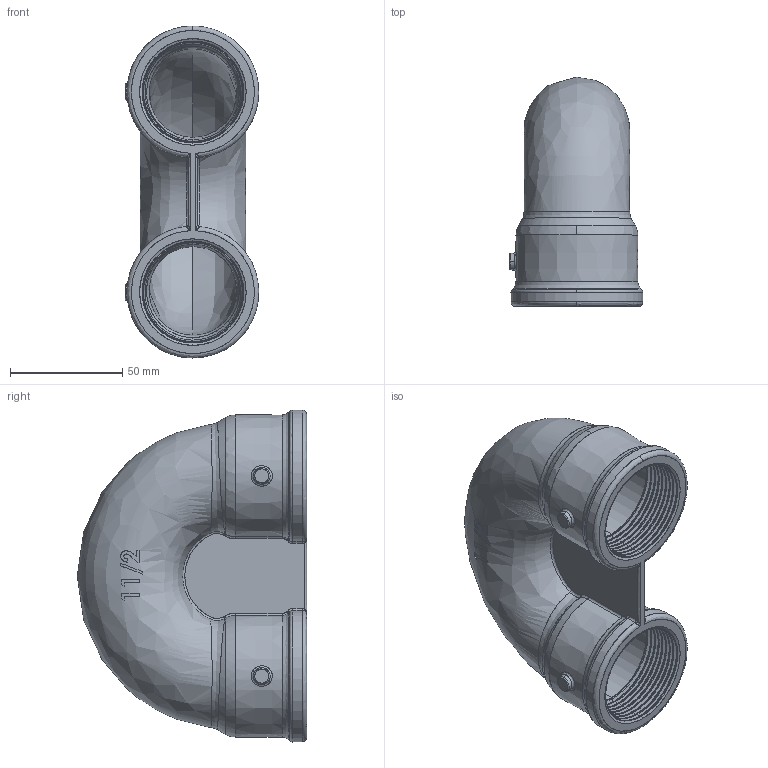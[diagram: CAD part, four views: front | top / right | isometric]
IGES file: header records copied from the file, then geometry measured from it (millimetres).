
Start section: SolidWorks IGES file using analytic representation for surfaces
Global section: file name: C:\Users\Joel Rosa\Desktop\Tubulação\12-29-OK\12-29-009.IGS; native system: SolidWorks 2011; preprocessor: SolidWorks 2011; author: Joel Rosa; date: 131026.115748; units: millimetre
Bounding box: 59.4 x 102 x 147.6 mm (x, y, z)
Surface area: 69115.2 mm2 (no closed solid volume)
Topology: 0 solids, 0 shells, 394 faces, 3832 edges, 3828 vertices
Faces by surface type: bspline 285, revolution 109
